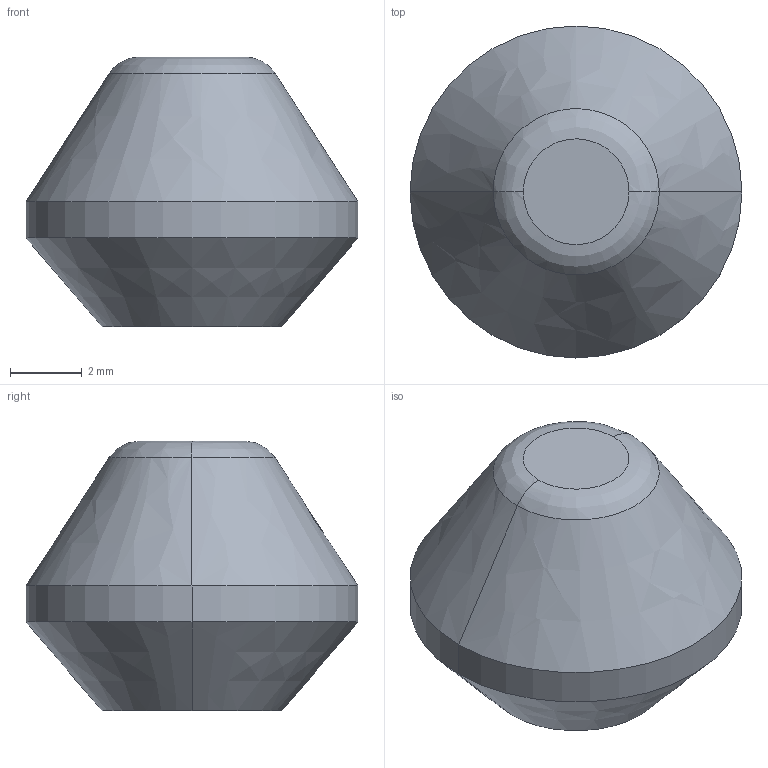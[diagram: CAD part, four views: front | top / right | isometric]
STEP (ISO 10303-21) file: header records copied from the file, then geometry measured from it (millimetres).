
FILE_DESCRIPTION(/* description */ (''),/* implementation_level */ '2;1');
FILE_NAME(/* name */ 'C:\ADSK_DMS_WS\Designs\Vorschläge\Loc Schalen\Schraubenlängebestimmung\Schrauben\Blindmutter M4 A2.stp',/* time_stamp */ '2021-10-05T14:07:00+02:00',/* author */ ('gm'),/* organization */ (''),/* preprocessor_version */ 'ST-DEVELOPER v16.5',/* originating_system */ 'Autodesk Inventor 2017',/* authorisation */ '');
FILE_SCHEMA (('AUTOMOTIVE_DESIGN { 1 0 10303 214 3 1 1 }'));
Length unit declared in the file: millimetre
Products named in the file (1): 210114_Blindmutter_002_
Bounding box: 9.23 x 9.23 x 7.5 mm (x, y, z)
Volume: 255.3 mm3; surface area: 298.3 mm2
Topology: 1 solids, 1 shells, 14 faces, 28 edges, 16 vertices
Faces by surface type: bspline 11, plane 2, cylinder 1
Full cylindrical faces by diameter (mm): 3.242 x1
Entity records: 1138 total; most frequent: CARTESIAN_POINT 864, ORIENTED_EDGE 54, DIRECTION 38, EDGE_CURVE 27, VERTEX_POINT 16, EDGE_LOOP 15, AXIS2_PLACEMENT_3D 15, FACE_OUTER_BOUND 14
